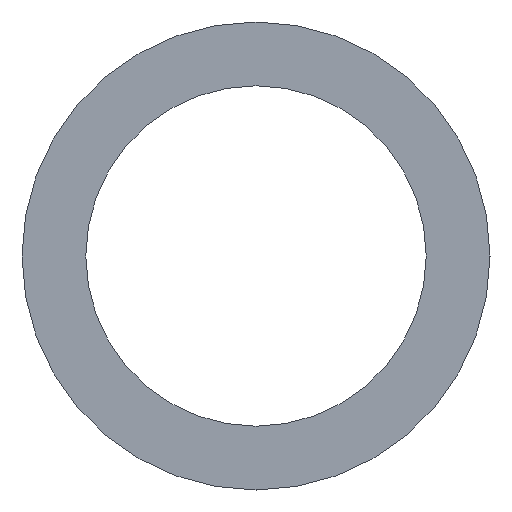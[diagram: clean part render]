
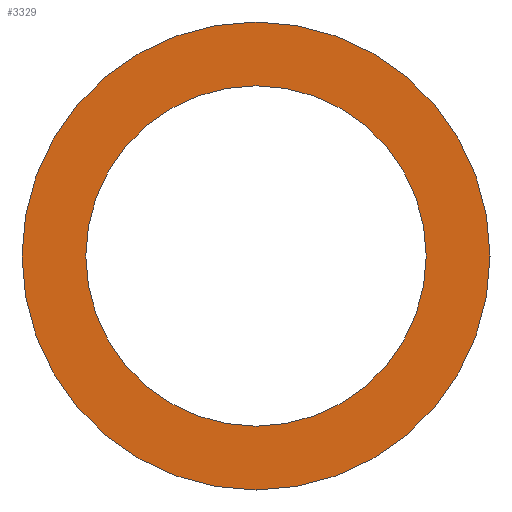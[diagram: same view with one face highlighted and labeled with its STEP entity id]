
A CAD part, front view. The second image highlights one B-rep face of the part: STEP entity #3329.
In plain terms, the highlighted planar face has unit normal (0, -1, 0).
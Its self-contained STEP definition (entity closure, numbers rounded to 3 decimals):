
#56 = DIRECTION ( 'NONE',  ( 0., 0., -1. ) ) ;
#67 = CIRCLE ( 'NONE', #2285, 82.5 ) ;
#217 = CIRCLE ( 'NONE', #2964, 60. ) ;
#297 = VERTEX_POINT ( 'NONE', #532 ) ;
#304 = DIRECTION ( 'NONE',  ( 0., -1., 0. ) ) ;
#420 = FACE_OUTER_BOUND ( 'NONE', #2800, .T. ) ;
#490 = PLANE ( 'NONE',  #1042 ) ;
#532 = CARTESIAN_POINT ( 'NONE',  ( 0., -22., 60. ) ) ;
#747 = DIRECTION ( 'NONE',  ( 0., -1., 0. ) ) ;
#769 = FACE_BOUND ( 'NONE', #3883, .T. ) ;
#808 = CARTESIAN_POINT ( 'NONE',  ( 0., -22., 0. ) ) ;
#1042 = AXIS2_PLACEMENT_3D ( 'NONE', #3340, #1452, #3656 ) ;
#1252 = CARTESIAN_POINT ( 'NONE',  ( 0., -22., 82.5 ) ) ;
#1280 = ORIENTED_EDGE ( 'NONE', *, *, #2906, .F. ) ;
#1403 = VERTEX_POINT ( 'NONE', #1252 ) ;
#1452 = DIRECTION ( 'NONE',  ( 0., 1., 0. ) ) ;
#1607 = EDGE_CURVE ( 'NONE', #1403, #3065, #2766, .T. ) ;
#1702 = ORIENTED_EDGE ( 'NONE', *, *, #2406, .F. ) ;
#2046 = EDGE_CURVE ( 'NONE', #3065, #1403, #67, .T. ) ;
#2129 = DIRECTION ( 'NONE',  ( 0., 0., -1. ) ) ;
#2285 = AXIS2_PLACEMENT_3D ( 'NONE', #2732, #4027, #2129 ) ;
#2380 = DIRECTION ( 'NONE',  ( 0., 0., -1. ) ) ;
#2406 = EDGE_CURVE ( 'NONE', #297, #2700, #2949, .T. ) ;
#2491 = AXIS2_PLACEMENT_3D ( 'NONE', #2629, #747, #56 ) ;
#2629 = CARTESIAN_POINT ( 'NONE',  ( 0., -22., 0. ) ) ;
#2642 = DIRECTION ( 'NONE',  ( 0., -1., 0. ) ) ;
#2700 = VERTEX_POINT ( 'NONE', #2708 ) ;
#2708 = CARTESIAN_POINT ( 'NONE',  ( 0., -22., -60. ) ) ;
#2732 = CARTESIAN_POINT ( 'NONE',  ( 0., -22., 0. ) ) ;
#2766 = CIRCLE ( 'NONE', #2981, 82.5 ) ;
#2797 = ORIENTED_EDGE ( 'NONE', *, *, #2046, .T. ) ;
#2800 = EDGE_LOOP ( 'NONE', ( #2797, #3633 ) ) ;
#2834 = DIRECTION ( 'NONE',  ( 0., 0., -1. ) ) ;
#2906 = EDGE_CURVE ( 'NONE', #2700, #297, #217, .T. ) ;
#2949 = CIRCLE ( 'NONE', #2491, 60. ) ;
#2964 = AXIS2_PLACEMENT_3D ( 'NONE', #4117, #304, #2834 ) ;
#2981 = AXIS2_PLACEMENT_3D ( 'NONE', #808, #2642, #2380 ) ;
#3065 = VERTEX_POINT ( 'NONE', #3853 ) ;
#3329 = ADVANCED_FACE ( 'NONE', ( #769, #420 ), #490, .F. ) ;
#3340 = CARTESIAN_POINT ( 'NONE',  ( 0., -22., 60. ) ) ;
#3633 = ORIENTED_EDGE ( 'NONE', *, *, #1607, .T. ) ;
#3656 = DIRECTION ( 'NONE',  ( 0., 0., 1. ) ) ;
#3853 = CARTESIAN_POINT ( 'NONE',  ( 0., -22., -82.5 ) ) ;
#3883 = EDGE_LOOP ( 'NONE', ( #1280, #1702 ) ) ;
#4027 = DIRECTION ( 'NONE',  ( 0., -1., 0. ) ) ;
#4117 = CARTESIAN_POINT ( 'NONE',  ( 0., -22., 0. ) ) ;
